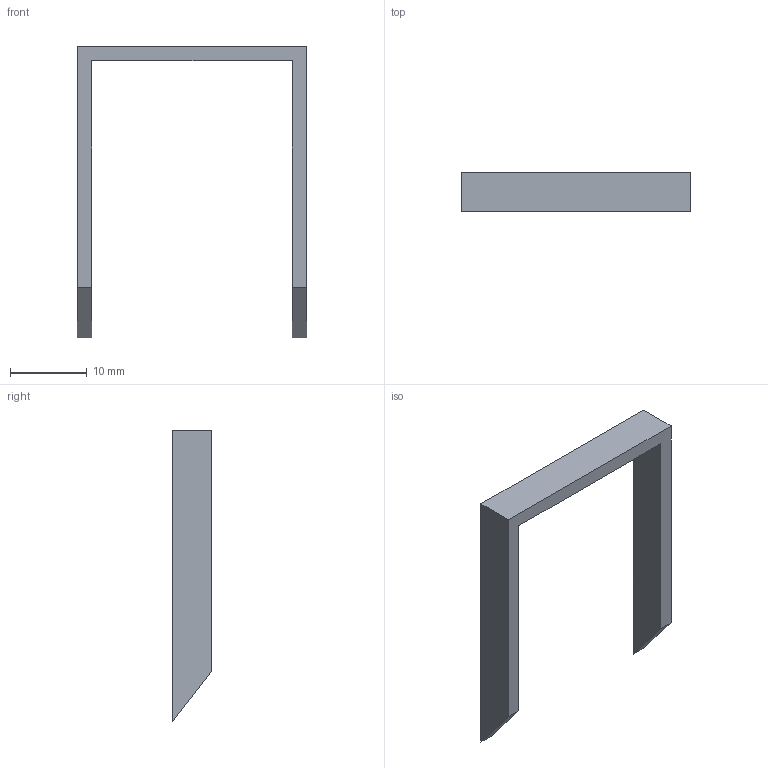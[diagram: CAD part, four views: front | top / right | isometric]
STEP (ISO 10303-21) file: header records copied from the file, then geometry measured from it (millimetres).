
FILE_DESCRIPTION(/* description */ (''),/* implementation_level */ '2;1');
FILE_NAME(/* name */ 'D:/Pew Pews/FGC-9_MkII_Stingray_Edition/Stingray Edition/.step files/3 - Buffer Tube and Stock/Buffer Tube/Buffer Tube color inlay.step',/* time_stamp */ '2022-05-12T09:44:26-06:00',/* author */ (''),/* organization */ (''),/* preprocessor_version */ 'ST-DEVELOPER v18.1',/* originating_system */ 'Autodesk Translation Framework v10.10.0.1391',/* authorisation */ '');
FILE_SCHEMA (('AUTOMOTIVE_DESIGN { 1 0 10303 214 3 1 1 }'));
Length unit declared in the file: millimetre
Products named in the file (1): Buffer tube color inlay
Bounding box: 30 x 5.09 x 38.06 mm (x, y, z)
Volume: 926.3 mm3; surface area: 1370.5 mm2
Topology: 1 solids, 1 shells, 10 faces, 24 edges, 16 vertices
Faces by surface type: plane 10
Entity records: 328 total; most frequent: CARTESIAN_POINT 51, ORIENTED_EDGE 48, DIRECTION 46, LINE 24, VECTOR 24, EDGE_CURVE 24, VERTEX_POINT 16, AXIS2_PLACEMENT_3D 11
